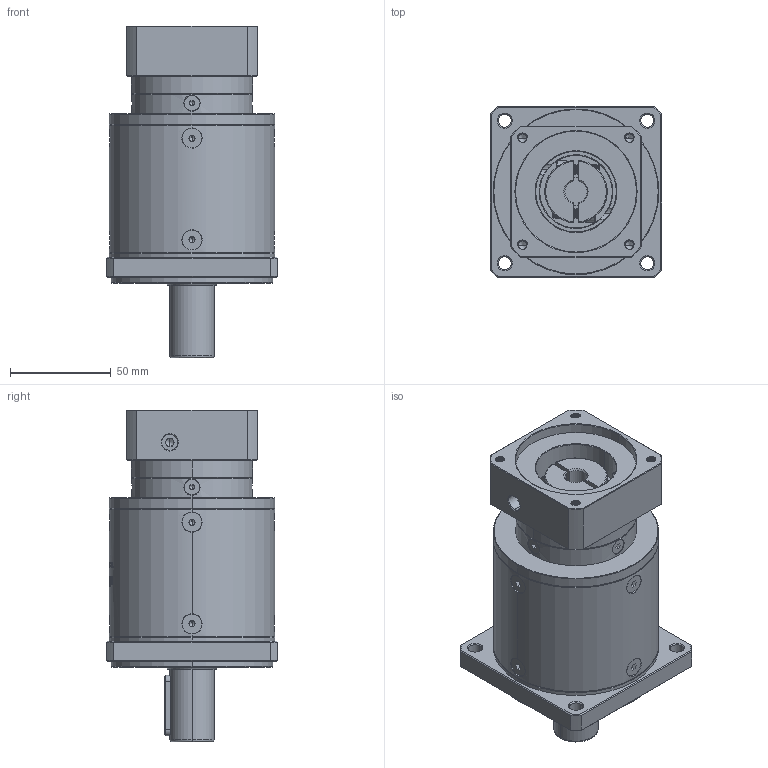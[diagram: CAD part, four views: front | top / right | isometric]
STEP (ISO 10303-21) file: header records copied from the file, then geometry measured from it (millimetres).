
FILE_DESCRIPTION (( 'STEP AP214' ), '1' );
FILE_NAME ('ZF80-D22-L3-11-60-75-M5.step', '2022-05-08T09:27:38', ( '' ), ( 'Microsoft' ), 'SwSTEP 2.0', 'SolidWorks 2016', '' );
FILE_SCHEMA (( 'AUTOMOTIVE_DESIGN' ));
Length unit declared in the file: millimetre
Products named in the file (1): ZF80-D22-L3-11-60-75-M5
Bounding box: 85 x 85 x 164.5 mm (x, y, z)
Volume: 587756.3 mm3; surface area: 75795 mm2
Topology: 18 solids, 18 shells, 2046 faces, 5355 edges, 3406 vertices
Faces by surface type: plane 953, cylinder 425, bspline 328, cone 326, torus 14
Entity records: 111131 total; most frequent: CARTESIAN_POINT 41803, ORIENTED_EDGE 10634, DIRECTION 8484, EDGE_CURVE 5317, VERTEX_POINT 3406, LINE 2870, VECTOR 2870, AXIS2_PLACEMENT_3D 2807
